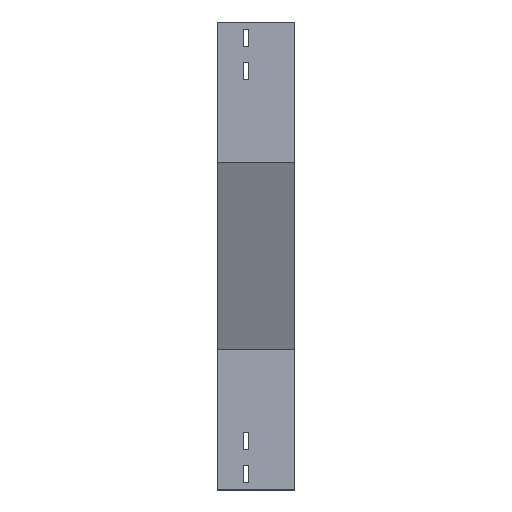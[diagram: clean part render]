
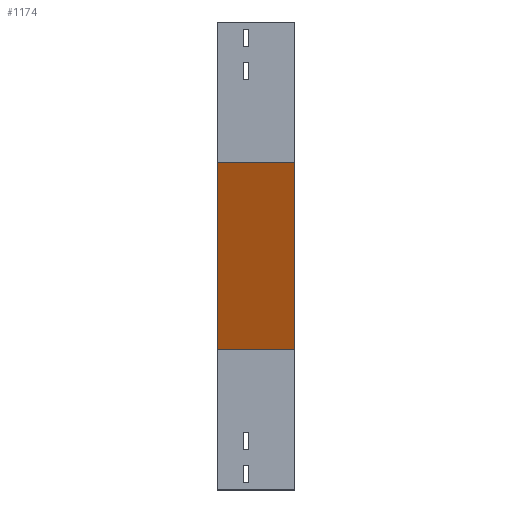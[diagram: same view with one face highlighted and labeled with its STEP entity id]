
A CAD part, left-side view. The second image highlights one B-rep face of the part: STEP entity #1174.
In plain terms, the highlighted planar face has unit normal (-0.923, 0, -0.385).
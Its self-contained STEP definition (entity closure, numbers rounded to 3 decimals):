
#5 = ORIENTED_EDGE ( 'NONE', *, *, #2684, .F. ) ;
#326 = ORIENTED_EDGE ( 'NONE', *, *, #400, .T. ) ;
#335 = LINE ( 'NONE', #1422, #1650 ) ;
#376 = DIRECTION ( 'NONE',  ( 0.923, 0., 0.385 ) ) ;
#393 = DIRECTION ( 'NONE',  ( 0.385, 0., -0.923 ) ) ;
#400 = EDGE_CURVE ( 'NONE', #1849, #1345, #684, .T. ) ;
#425 = DIRECTION ( 'NONE',  ( 0.385, 0., -0.923 ) ) ;
#451 = ORIENTED_EDGE ( 'NONE', *, *, #1265, .F. ) ;
#684 = LINE ( 'NONE', #2977, #1583 ) ;
#687 = PLANE ( 'NONE',  #3121 ) ;
#749 = CARTESIAN_POINT ( 'NONE',  ( 0., 0., -180. ) ) ;
#894 = LINE ( 'NONE', #2011, #1663 ) ;
#906 = CARTESIAN_POINT ( 'NONE',  ( 0., 0., -180. ) ) ;
#994 = CARTESIAN_POINT ( 'NONE',  ( 0., 0., -180. ) ) ;
#1033 = LINE ( 'NONE', #749, #3316 ) ;
#1174 = ADVANCED_FACE ( 'NONE', ( #2411 ), #687, .F. ) ;
#1265 = EDGE_CURVE ( 'NONE', #1729, #1345, #335, .T. ) ;
#1345 = VERTEX_POINT ( 'NONE', #2362 ) ;
#1422 = CARTESIAN_POINT ( 'NONE',  ( 100., 0., -420. ) ) ;
#1495 = DIRECTION ( 'NONE',  ( 0.385, 0., -0.923 ) ) ;
#1583 = VECTOR ( 'NONE', #393, 1000. ) ;
#1650 = VECTOR ( 'NONE', #1709, 1000. ) ;
#1659 = CARTESIAN_POINT ( 'NONE',  ( 0., 100., -180. ) ) ;
#1663 = VECTOR ( 'NONE', #3143, 1000. ) ;
#1709 = DIRECTION ( 'NONE',  ( 0., 1., 0. ) ) ;
#1729 = VERTEX_POINT ( 'NONE', #1881 ) ;
#1849 = VERTEX_POINT ( 'NONE', #1659 ) ;
#1881 = CARTESIAN_POINT ( 'NONE',  ( 100., 0., -420. ) ) ;
#2011 = CARTESIAN_POINT ( 'NONE',  ( 0., 0., -180. ) ) ;
#2347 = ORIENTED_EDGE ( 'NONE', *, *, #2357, .F. ) ;
#2357 = EDGE_CURVE ( 'NONE', #3463, #1729, #1033, .T. ) ;
#2362 = CARTESIAN_POINT ( 'NONE',  ( 100., 100., -420. ) ) ;
#2411 = FACE_OUTER_BOUND ( 'NONE', #3239, .T. ) ;
#2684 = EDGE_CURVE ( 'NONE', #1849, #3463, #894, .T. ) ;
#2977 = CARTESIAN_POINT ( 'NONE',  ( 0., 100., -180. ) ) ;
#3121 = AXIS2_PLACEMENT_3D ( 'NONE', #994, #376, #1495 ) ;
#3143 = DIRECTION ( 'NONE',  ( 0., -1., 0. ) ) ;
#3239 = EDGE_LOOP ( 'NONE', ( #2347, #5, #326, #451 ) ) ;
#3316 = VECTOR ( 'NONE', #425, 1000. ) ;
#3463 = VERTEX_POINT ( 'NONE', #906 ) ;
